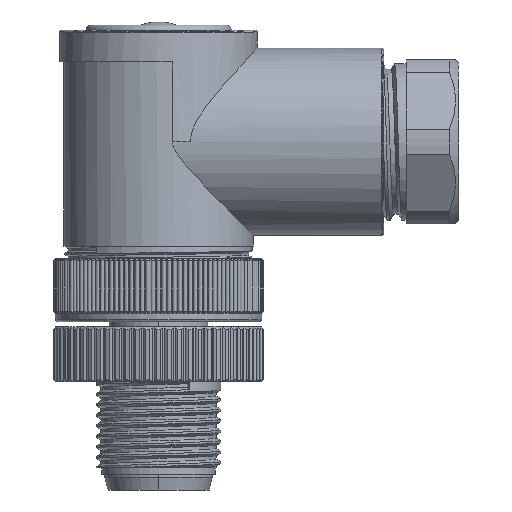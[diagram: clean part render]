
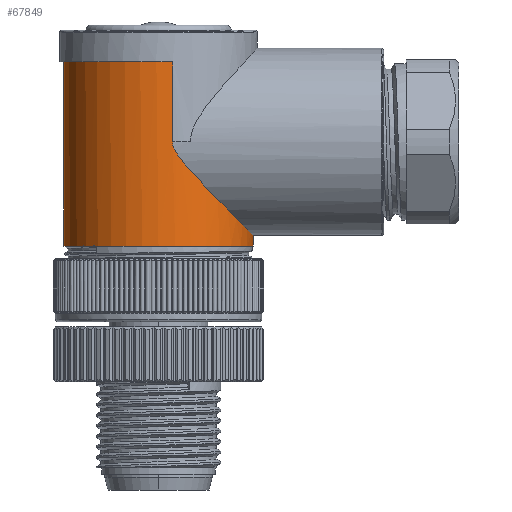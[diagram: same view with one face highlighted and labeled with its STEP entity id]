
A CAD part, front view. The second image highlights one B-rep face of the part: STEP entity #67849.
In plain terms, the highlighted cylindrical face has radius 9 mm (diameter 18 mm), a partial arc.
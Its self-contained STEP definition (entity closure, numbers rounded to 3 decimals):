
#14403=CARTESIAN_POINT('',(0.,0.,5.));
#14404=DIRECTION('',(0.,0.,-1.));
#14405=DIRECTION('',(1.,0.,0.));
#14406=AXIS2_PLACEMENT_3D('',#14403,#14404,#14405);
#14476=CARTESIAN_POINT('',(9.,0.,6.));
#14477=CARTESIAN_POINT('',(9.,-0.089,
6.));
#14478=CARTESIAN_POINT('',(8.997,-0.267,
6.003));
#14479=CARTESIAN_POINT('',(8.985,-0.534,
6.015));
#14480=CARTESIAN_POINT('',(8.966,-0.801,
6.035));
#14481=CARTESIAN_POINT('',(8.938,-1.068,
6.063));
#14482=CARTESIAN_POINT('',(8.902,-1.335,
6.099));
#14483=CARTESIAN_POINT('',(8.858,-1.603,
6.144));
#14484=CARTESIAN_POINT('',(8.805,-1.871,
6.197));
#14485=CARTESIAN_POINT('',(8.744,-2.139,
6.259));
#14486=CARTESIAN_POINT('',(8.674,-2.407,
6.33));
#14487=CARTESIAN_POINT('',(8.595,-2.676,
6.41));
#14488=CARTESIAN_POINT('',(8.506,-2.944,
6.5));
#14489=CARTESIAN_POINT('',(8.409,-3.213,
6.599));
#14490=CARTESIAN_POINT('',(8.301,-3.482,
6.708));
#14491=CARTESIAN_POINT('',(8.183,-3.75,
6.827));
#14492=CARTESIAN_POINT('',(8.055,-4.018,
6.957));
#14493=CARTESIAN_POINT('',(7.917,-4.285,
7.097));
#14494=CARTESIAN_POINT('',(7.767,-4.551,
7.249));
#14495=CARTESIAN_POINT('',(7.606,-4.815,
7.413));
#14496=CARTESIAN_POINT('',(7.433,-5.078,
7.588));
#14497=CARTESIAN_POINT('',(7.248,-5.338,
7.776));
#14498=CARTESIAN_POINT('',(7.052,-5.596,
7.977));
#14499=CARTESIAN_POINT('',(6.842,-5.85,
8.19));
#14500=CARTESIAN_POINT('',(6.62,-6.1,
8.416));
#14501=CARTESIAN_POINT('',(6.386,-6.345,
8.656));
#14502=CARTESIAN_POINT('',(6.138,-6.585,
8.909));
#14503=CARTESIAN_POINT('',(5.878,-6.818,
9.176));
#14504=CARTESIAN_POINT('',(5.605,-7.045,
9.457));
#14505=CARTESIAN_POINT('',(5.319,-7.263,
9.751));
#14506=CARTESIAN_POINT('',(5.022,-7.472,
10.06));
#14507=CARTESIAN_POINT('',(4.712,-7.671,
10.381));
#14508=CARTESIAN_POINT('',(4.393,-7.858,
10.716));
#14509=CARTESIAN_POINT('',(4.063,-8.034,
11.063));
#14510=CARTESIAN_POINT('',(3.727,-8.195,
11.42));
#14511=CARTESIAN_POINT('',(3.384,-8.342,
11.791));
#14512=CARTESIAN_POINT('',(3.048,-8.471,
12.16));
#14513=CARTESIAN_POINT('',(2.758,-8.568,
12.487));
#14514=CARTESIAN_POINT('',(2.508,-8.644,
12.776));
#14515=CARTESIAN_POINT('',(2.292,-8.704,
13.037));
#14516=CARTESIAN_POINT('',(2.107,-8.751,
13.27));
#14517=CARTESIAN_POINT('',(1.949,-8.787,
13.481));
#14518=CARTESIAN_POINT('',(1.816,-8.815,
13.67));
#14519=CARTESIAN_POINT('',(1.705,-8.837,
13.84));
#14520=CARTESIAN_POINT('',(1.615,-8.854,
13.993));
#14521=CARTESIAN_POINT('',(1.542,-8.867,
14.13));
#14522=CARTESIAN_POINT('',(1.485,-8.877,
14.252));
#14523=CARTESIAN_POINT('',(1.441,-8.884,
14.362));
#14524=CARTESIAN_POINT('',(1.406,-8.889,
14.464));
#14525=CARTESIAN_POINT('',(1.38,-8.894,
14.558));
#14526=CARTESIAN_POINT('',(1.361,-8.897,
14.647));
#14527=CARTESIAN_POINT('',(1.347,-8.899,
14.733));
#14528=CARTESIAN_POINT('',(1.34,-8.9,
14.817));
#14529=CARTESIAN_POINT('',(1.338,-8.9,
14.872));
#14530=CARTESIAN_POINT('',(1.338,-8.9,
14.9));
#34908=DIRECTION('',(0.,0.,-1.));
#34909=VECTOR('',#34908,1.);
#34910=CARTESIAN_POINT('',(9.,0.,6.));
#34911=LINE('',#34910,#34909);
#34912=DIRECTION('',(0.,0.,-1.));
#34913=VECTOR('',#34912,17.5);
#34914=CARTESIAN_POINT('',(-9.,0.,22.5));
#34915=LINE('',#34914,#34913);
#34916=DIRECTION('',(0.,0.,1.));
#34917=VECTOR('',#34916,7.581);
#34918=CARTESIAN_POINT('',(1.338,-8.9,
14.919));
#34919=LINE('',#34918,#34917);
#34920=CARTESIAN_POINT('',(1.338,-8.9,
14.9));
#34921=CARTESIAN_POINT('',(1.338,-8.9,
14.906));
#34922=CARTESIAN_POINT('',(1.338,-8.9,
14.913));
#34923=CARTESIAN_POINT('',(1.338,-8.9,
14.919));
#34929=CARTESIAN_POINT('',(0.,0.,22.5));
#34930=DIRECTION('',(0.,0.,1.));
#34931=DIRECTION('',(-1.,0.,0.));
#34932=AXIS2_PLACEMENT_3D('',#34929,#34930,#34931);
#37803=CARTESIAN_POINT('',(1.338,-8.9,22.5));
#37805=VERTEX_POINT('',#37803);
#37808=CARTESIAN_POINT('',(1.338,-8.9,
14.9));
#37810=VERTEX_POINT('',#37808);
#38051=CARTESIAN_POINT('',(9.,0.,6.));
#38053=VERTEX_POINT('',#38051);
#38078=CARTESIAN_POINT('',(-9.,0.,22.5));
#38079=CARTESIAN_POINT('',(-9.,0.,5.));
#38080=VERTEX_POINT('',#38078);
#38081=VERTEX_POINT('',#38079);
#38082=CARTESIAN_POINT('',(9.,0.,5.));
#38083=VERTEX_POINT('',#38082);
#38086=CARTESIAN_POINT('',(1.338,-8.9,
14.919));
#38087=VERTEX_POINT('',#38086);
#67832=CARTESIAN_POINT('',(0.,0.,4.5));
#67833=DIRECTION('',(0.,0.,-1.));
#67834=DIRECTION('',(-1.,0.,0.));
#67835=AXIS2_PLACEMENT_3D('',#67832,#67833,#67834);
#67836=CYLINDRICAL_SURFACE('',#67835,9.);
#67837=ORIENTED_EDGE('',*,*,#52764,.F.);
#67838=ORIENTED_EDGE('',*,*,#52649,.T.);
#67839=ORIENTED_EDGE('',*,*,#52622,.T.);
#67840=ORIENTED_EDGE('',*,*,#52646,.F.);
#67842=ORIENTED_EDGE('',*,*,#67841,.T.);
#67844=ORIENTED_EDGE('',*,*,#67843,.F.);
#67846=ORIENTED_EDGE('',*,*,#67845,.F.);
#67847=EDGE_LOOP('',(#67837,#67838,#67839,#67840,#67842,#67844,#67846));
#67848=FACE_OUTER_BOUND('',#67847,.F.);
#67849=ADVANCED_FACE('',(#67848),#67836,.T.);
#14407=CIRCLE('',#14406,9.);
#14531=B_SPLINE_CURVE_WITH_KNOTS('',3,(#14476,#14477,#14478,#14479,#14480,
#14481,#14482,#14483,#14484,#14485,#14486,#14487,#14488,#14489,#14490,#14491,
#14492,#14493,#14494,#14495,#14496,#14497,#14498,#14499,#14500,#14501,#14502,
#14503,#14504,#14505,#14506,#14507,#14508,#14509,#14510,#14511,#14512,#14513,
#14514,#14515,#14516,#14517,#14518,#14519,#14520,#14521,#14522,#14523,#14524,
#14525,#14526,#14527,#14528,#14529,#14530),.UNSPECIFIED.,.F.,.F.,(4,1,1,1,1,1,1,
1,1,1,1,1,1,1,1,1,1,1,1,1,1,1,1,1,1,1,1,1,1,1,1,1,1,1,1,1,1,1,1,1,1,1,1,1,1,1,1,
1,1,1,1,1,4),(0.,0.019,0.038,0.058,
0.077,0.096,0.115,0.135,
0.154,0.173,0.192,0.212,
0.231,0.25,0.269,0.288,0.308,
0.327,0.346,0.365,0.385,
0.404,0.423,0.442,0.462,
0.481,0.5,0.519,0.538,0.558,
0.577,0.596,0.615,0.635,
0.654,0.673,0.692,0.712,
0.731,0.75,0.769,0.788,0.808,
0.827,0.846,0.865,0.885,
0.904,0.923,0.942,0.962,
0.981,1.),.UNSPECIFIED.);
#34924=B_SPLINE_CURVE_WITH_KNOTS('',3,(#34920,#34921,#34922,#34923),
.UNSPECIFIED.,.F.,.F.,(4,4),(0.,1.),.UNSPECIFIED.);
#34933=CIRCLE('',#34932,9.);
#52622=EDGE_CURVE('',#38083,#38081,#14407,.T.);
#52646=EDGE_CURVE('',#38080,#38081,#34915,.T.);
#52649=EDGE_CURVE('',#38053,#38083,#34911,.T.);
#52764=EDGE_CURVE('',#38053,#37810,#14531,.T.);
#67841=EDGE_CURVE('',#38080,#37805,#34933,.T.);
#67843=EDGE_CURVE('',#38087,#37805,#34919,.T.);
#67845=EDGE_CURVE('',#37810,#38087,#34924,.T.);
